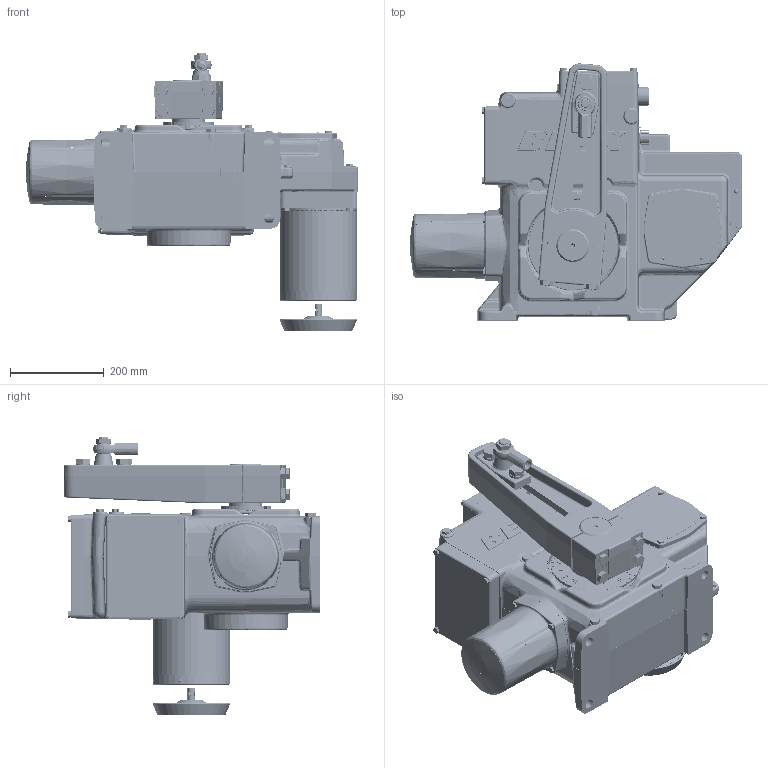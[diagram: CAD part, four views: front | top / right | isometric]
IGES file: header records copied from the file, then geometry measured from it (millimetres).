
Start section: SolidWorks IGES file using analytic representation for surfaces
Global section: file name: N:\Engineering\Product Support\Outline Dimension Models\11-400 & 460\Output\18-0400-01.IGS; native system: SolidWorks 2009; preprocessor: SolidWorks 2009; author: PDY; date: 110502.114337; units: inch
Bounding box: 708.29 x 548.2 x 593.97 mm (x, y, z)
Surface area: 1761739.9 mm2 (no closed solid volume)
Topology: 0 solids, 0 shells, 2349 faces, 36365 edges, 36302 vertices
Faces by surface type: bspline 1330, revolution 1019
